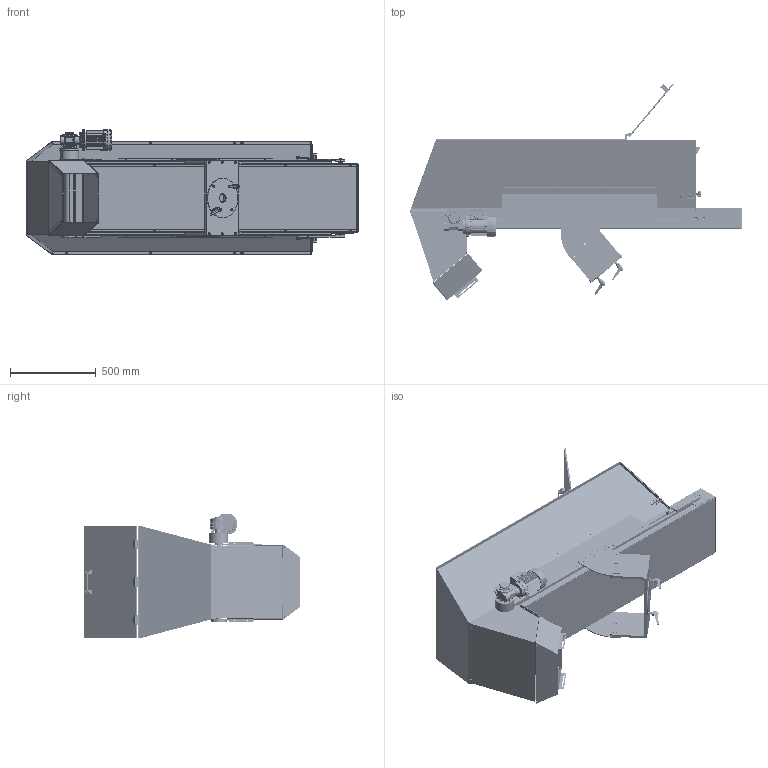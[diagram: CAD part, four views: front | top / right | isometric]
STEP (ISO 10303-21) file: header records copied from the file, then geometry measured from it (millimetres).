
FILE_DESCRIPTION (( 'STEP AP214' ), '1' );
FILE_NAME ('GM000488 Hopper feeder 150lt Inox_D.STEP', '2022-06-21T08:56:42', ( '' ), ( '' ), 'SwSTEP 2.0', 'SolidWorks 2020', '' );
FILE_SCHEMA (( 'AUTOMOTIVE_DESIGN' ));
Length unit declared in the file: millimetre
Products named in the file (63): Copia di CARICATORE_SUP_DISCO_ANTIFRIZ^CM000782; Copia (2) di CARICATORE_RULLO_PROFILO^CM000782; Copia (2) di CARICATORE_CUFFIA_SUPERIORE^CM000782; Copia (2) di CARICATORE_SERRAGGIO_DIR_ASS_ASM^CM000782; CARICATORE_SERRAGGIO_DIR_GANCIO(2)^Copia (2) di CARICATORE_SERRAGGIO_DIR_ASS_ASM_CM000782; Copia di CARICATORE_CHIUSURA_CUFFIA_POL^CM000782; Copia (2) di CARICATORE_MANOPOLA_LOBI_2^CM000782; Copia (2) di CARICATORE_TRAMOGG_LATO_CAR^CM000782; Copia di MANOPOLA_12X40^CM000782; Copia (2) di CARICATORE_TRAVERSA^CM000782; Copia (2) di CARICATORE_MANIGLIA^CM000782; Copia (2) di CARICATORE_PIATTO_CERNIERE_POST^CM000782; Copia (2) di CARICATORE_TRAMOGGIA_LATO_DX^CM000782; Copia (2) di CARICATORE_CUSCIN_MOTORE^CM000782; Copia (2) di CARICATORE_RULLO_TAPPO^CM000782; CARICATORE_CERNIERA_ALETTA(2)^Copia (2) di CARICATORE_CERNIERA_ASSIEME_ASM_CM000782; Copia (2) di CARICATORE_FERMA_PEZZI^CM000782; CARICATORE_CERNIERA_CORPO(2)^Copia (2) di CARICATORE_CERNIERA_POST_ASS_ASM_CM000782; Copia (2) di CARICATORE_TRAV_PORTACER^CM000782; PD001824; Copia di CARICATORE_CHIUSURA_CUFFIA_POL2^CM000782; Copia (2) di CARICATORE_FLANGIA_PORTAMOT^CM000782; Copia (2) di CARICATORE_TENDINASTRO^CM000782; Copia (2) di CARICATORE_PORTELLA_CARICO^CM000782; Copia (2) di CARICATORE_PROFILO_POLIZENE_SX^CM000782; Copia (2) di CARICATORE_CHIUSURA_CUFFIA_1^CM000782; Copia (2) di CARICATORE_CUFFIA_DI_RITORNO^CM000782; Copia (2) di CARICATORE_GOMMATURA_RULLO_MOTO^CM000782; Copia (2) di CARICATORE_PIATTO_CAVA_PROF^CM000782; Copia (2) di CARICATORE_TAPPETO^CM000782; Copia (2) di CARICATORE_SUPP_SPONDA_SX^CM000782; Copia di CARICATORE_TRAVERSA_SOST^CM000782; Copia (2) di CARICATORE_PROFILO_POLIZENE_INF^CM000782; Copia (2) di CARICATORE_CHIUSURA_TEN_LAT^CM000782; GM000488 Hopper feeder 150lt Inox_D; Copia di motore^CM000782; Copia (2) di CARICATORE_PIASTRA_FISSAGG^CM000782; Copia (2) di CARICATORE_TRAMOG_LATO_SCARICO^CM000782; Copia (2) di CARICATORE_TRAMOGGIA_LATO_SX^CM000782; Copia (2) di CARICATORE_LAMIERA_FONDO^CM000782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
Assembly tree (92 placements, depth 4):
  GM000488 Hopper feeder 150lt Inox_D
    CM000782_Sinistra
      Copia di motore^CM000782
      Copia (2) di CARICATORE_CERNIERA_ASSIEME_ASM^CM000782  x3
        CARICATORE_CERNIERA_CORPO(2)^Copia (2) di CARICATORE_CERNIERA_ASSIEME_ASM_CM000782
        CARICATORE_CERNIERA_ALETTA(2)^Copia (2) di CARICATORE_CERNIERA_ASSIEME_ASM_CM000782
      Copia (2) di CARICATORE_CERNIERA_POST_ASS_ASM^CM000782  x3
        CARICATORE_CERNIERA_CORPO(2)^Copia (2) di CARICATORE_CERNIERA_POST_ASS_ASM_CM000782
        CARICATORE_CERNIERA_ALETTA(2)^Copia (2) di CARICATORE_CERNIERA_POST_ASS_ASM_CM000782
      Copia (2) di CARICATORE_SERRAGGIO_DIR_ASS_ASM^CM000782  x2
        CARICATORE_SERRAGGIO_DIR_FISS(2)^Copia (2) di CARICATORE_SERRAGGIO_DIR_ASS_ASM_CM000782
        CARICATORE_SERRAGGIO_DIR_LEVA(2)^Copia (2) di CARICATORE_SERRAGGIO_DIR_ASS_ASM_CM000782
        CARICATORE_SERRAGGIO_DIR_GANCIO(2)^Copia (2) di CARICATORE_SERRAGGIO_DIR_ASS_ASM_CM000782
      Copia (2) di CARICATORE_RULLO_PROFILO^CM000782  x2
      Copia (2) di CARICATORE_GOMMATURA_RULLO_MOTO^CM000782
      Copia (2) di CARICATORE_RULLO_TAPPO^CM000782  x4
      Copia (2) di CARICATORE_PERNO_RINVIO^CM000782  x3
      Copia (2) di CARICATORE_CUSCINETTO^CM000782  x3
      Copia (2) di CARICATORE_FLANGIA_RINVIO^CM000782  x3
      Copia (2) di CARICATORE_LONGHERONE^CM000782  x2
      Copia (2) di CARICATORE_TRAVERSA^CM000782  x3
      Copia (2) di CARICATORE_PROFILO_POLIZENE_SX^CM000782
      Copia (2) di CARICATORE_PROFILO_POLIZENE_DX^CM000782
      Copia (2) di CARICATORE_FLANGIA_PORTAMOT^CM000782
      Copia (2) di CARICATORE_CUSCIN_MOTORE^CM000782
      Copia (2) di CARICATORE_TENDINASTRO^CM000782  x2
      Copia (2) di CARICATORE_SUPP_SPONDA_DX^CM000782
      Copia (2) di CARICATORE_SUPP_SPONDA_SX^CM000782
      Copia (2) di CARICATORE_LAMIERA_FONDO^CM000782
      Copia (2) di CARICATORE_TAPPETO^CM000782
      Copia (2) di CARICATORE_TRAMOGGIA_LATO_DX^CM000782
      Copia (2) di CARICATORE_TRAMOGGIA_LATO_SX^CM000782
      Copia (2) di CARICATORE_TRAMOGG_LATO_CAR^CM000782
      Copia (2) di CARICATORE_PROFILO_POLIZENE_INF^CM000782  x2
      Copia (2) di CARICATORE_FIANCO_DI_RITORNO_SX^CM000782
      Copia (2) di CARICATORE_FIANCO_DI_RITORNO_DX^CM000782
      Copia (2) di CARICATORE_CUFFIA_DI_RITORNO^CM000782
      Copia (2) di CARICATORE_LAM_DI_RITORNO_FONDO^CM000782
      Copia (2) di CARICATORE_CUFFIA_DI_SCARICO^CM000782
      Copia (2) di CARICATORE_CUFFIA_SUPERIORE^CM000782
      Copia (2) di CARICATORE_PIATTO_CAVA_PROF^CM000782  x2
      Copia (2) di CARICATORE_TRAMOG_LATO_SCARICO^CM000782
      Copia (2) di CARICATORE_CHIUSURA_TEN_LAT^CM000782  x2
      Copia (2) di CARICATORE_TRAV_PORTACER^CM000782
      Copia (2) di CARICATORE_PORTELLA_CARICO^CM000782
      Copia (2) di CARICATORE_MANIGLIA^CM000782
      Copia (2) di CARICATORE_PIATTO_CERNIERE_POST^CM000782
      Copia (2) di CARICATORE_PORTELLA_POSTERIORE^CM000782
      Copia (2) di CARICATORE_MANOPOLA_LOBI_2^CM000782
      Copia (2) di CARICATORE_CHIUSURA_CUFFIA_2^CM000782
      Copia (2) di CARICATORE_CHIUSURA_CUFFIA_1^CM000782
      Copia (2) di CARICATORE_DISTA_CHIUS_CUFFIA^CM000782  x4
      Copia (2) di CARICATORE_FERMA_PEZZI^CM000782
      Copia (2) di CARICATORE_PIASTRA_FISSAGG^CM000782  x2
      Copia di CARICATORE_SUP_PIATTO_VERT^CM000782  x2
      Copia di CARICATORE_TRAVERSA_SOST^CM000782
      Copia di CARICATORE_SPESS_PORTELLA_POST^CM000782
      Copia di CARICATORE_CHIUSURA_CUFFIA_POL^CM000782
      Copia di CARICATORE_CHIUSURA_CUFFIA_POL2^CM000782
      Copia di CARICATORE_SUP_DISCO_ANTIFRIZ^CM000782
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Bounding box: 1934.51 x 1262.16 x 726.6 mm (x, y, z)
Volume: 21897347.8 mm3; surface area: 19668822.2 mm2
Topology: 84 solids, 257 shells, 5906 faces, 15512 edges, 10004 vertices
Faces by surface type: plane 2636, cylinder 2312, cone 531, bspline 196, torus 183, sphere 48
Entity records: 219912 total; most frequent: CARTESIAN_POINT 87118, ORIENTED_EDGE 23993, DIRECTION 19753, EDGE_CURVE 12184, VERTEX_POINT 7872, AXIS2_PLACEMENT_3D 7372, EDGE_LOOP 5536, LINE 5009
